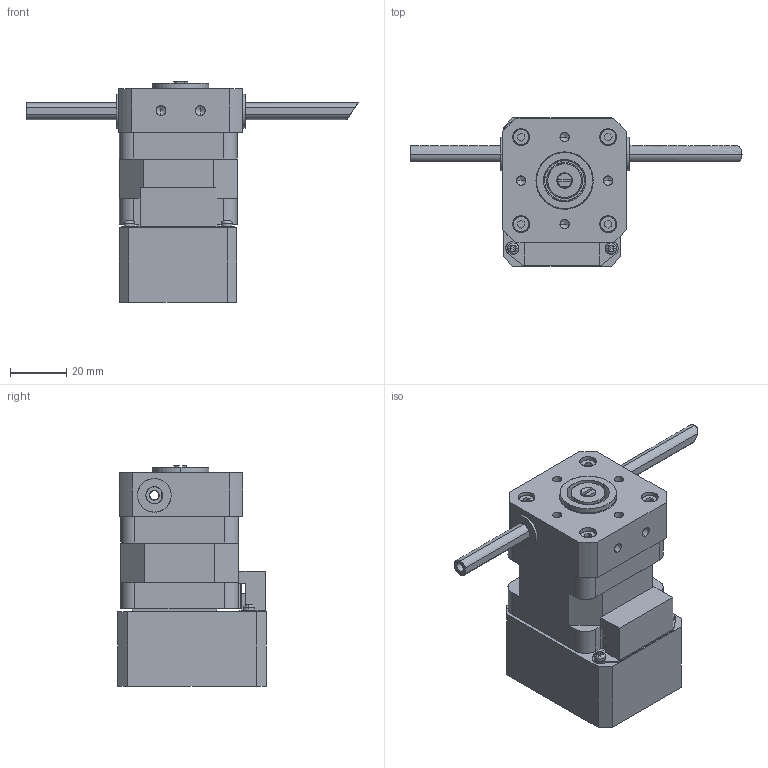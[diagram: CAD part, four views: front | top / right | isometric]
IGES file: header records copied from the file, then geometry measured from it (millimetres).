
Start section: SolidWorks IGES file using analytic representation for surfaces
Global section: file name: C:\Users\render\Documents\CAD Files\Integrated-Actuators\RRA-Series\RRA-17\RRA-17.IGS; native system: SolidWorks 2009; preprocessor: SolidWorks 2009; author: render; date: 100528.132337; units: millimetre
Bounding box: 118.22 x 53 x 78.5 mm (x, y, z)
Surface area: 34685.1 mm2 (no closed solid volume)
Topology: 0 solids, 0 shells, 370 faces, 5217 edges, 5205 vertices
Faces by surface type: bspline 206, revolution 164
